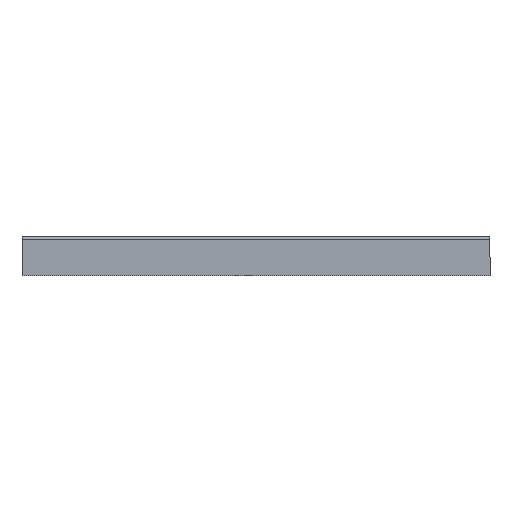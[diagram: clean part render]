
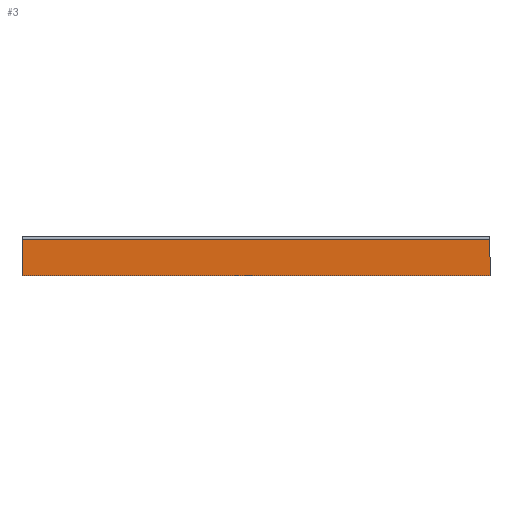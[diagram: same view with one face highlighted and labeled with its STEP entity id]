
A CAD part, left-side view. The second image highlights one B-rep face of the part: STEP entity #3.
In plain terms, the highlighted planar face has unit normal (-1, 0, 0).
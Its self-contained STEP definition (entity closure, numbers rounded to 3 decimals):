
#3 = ADVANCED_FACE ( 'NONE', ( #951 ), #268, .T. ) ;
#33 = DIRECTION ( 'NONE',  ( 0., 0., 1. ) ) ;
#142 = CARTESIAN_POINT ( 'NONE',  ( -100., 479., 37. ) ) ;
#178 = DIRECTION ( 'NONE',  ( 0., -1., 0. ) ) ;
#195 = VERTEX_POINT ( 'NONE', #352 ) ;
#203 = VERTEX_POINT ( 'NONE', #327 ) ;
#212 = DIRECTION ( 'NONE',  ( 0., 0., 1. ) ) ;
#217 = CARTESIAN_POINT ( 'NONE',  ( -100., 0., 0. ) ) ;
#231 = CARTESIAN_POINT ( 'NONE',  ( -100., 479., 0. ) ) ;
#266 = DIRECTION ( 'NONE',  ( 0., 0., 1. ) ) ;
#268 = PLANE ( 'NONE',  #592 ) ;
#276 = CARTESIAN_POINT ( 'NONE',  ( -100., 479., 0. ) ) ;
#283 = CARTESIAN_POINT ( 'NONE',  ( -100., 0., 37. ) ) ;
#303 = CARTESIAN_POINT ( 'NONE',  ( -100., 0., 0. ) ) ;
#327 = CARTESIAN_POINT ( 'NONE',  ( -100., 479., 37. ) ) ;
#352 = CARTESIAN_POINT ( 'NONE',  ( -100., 479., 0. ) ) ;
#364 = DIRECTION ( 'NONE',  ( 0., -1., 0. ) ) ;
#383 = VERTEX_POINT ( 'NONE', #303 ) ;
#464 = DIRECTION ( 'NONE',  ( -1., 0., 0. ) ) ;
#466 = VERTEX_POINT ( 'NONE', #283 ) ;
#473 = CARTESIAN_POINT ( 'NONE',  ( -100., 479., 0. ) ) ;
#479 = EDGE_CURVE ( 'NONE', #195, #203, #849, .T. ) ;
#493 = EDGE_CURVE ( 'NONE', #383, #466, #828, .T. ) ;
#592 = AXIS2_PLACEMENT_3D ( 'NONE', #473, #464, #33 ) ;
#596 = EDGE_CURVE ( 'NONE', #203, #466, #772, .T. ) ;
#597 = EDGE_CURVE ( 'NONE', #195, #383, #765, .T. ) ;
#682 = ORIENTED_EDGE ( 'NONE', *, *, #479, .F. ) ;
#706 = ORIENTED_EDGE ( 'NONE', *, *, #493, .T. ) ;
#764 = VECTOR ( 'NONE', #364, 1000. ) ;
#765 = LINE ( 'NONE', #231, #764 ) ;
#768 = VECTOR ( 'NONE', #178, 1000. ) ;
#772 = LINE ( 'NONE', #142, #768 ) ;
#825 = VECTOR ( 'NONE', #212, 1000. ) ;
#828 = LINE ( 'NONE', #217, #825 ) ;
#849 = LINE ( 'NONE', #276, #854 ) ;
#854 = VECTOR ( 'NONE', #266, 1000. ) ;
#945 = ORIENTED_EDGE ( 'NONE', *, *, #596, .F. ) ;
#951 = FACE_OUTER_BOUND ( 'NONE', #1029, .T. ) ;
#1029 = EDGE_LOOP ( 'NONE', ( #706, #945, #682, #1035 ) ) ;
#1035 = ORIENTED_EDGE ( 'NONE', *, *, #597, .T. ) ;
